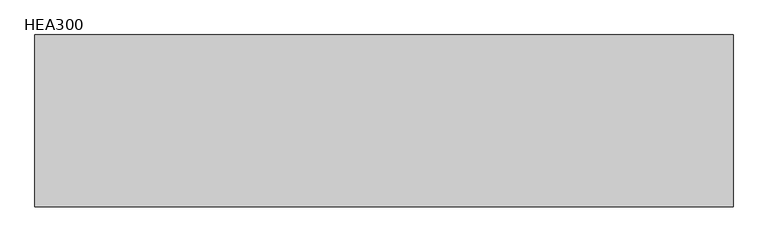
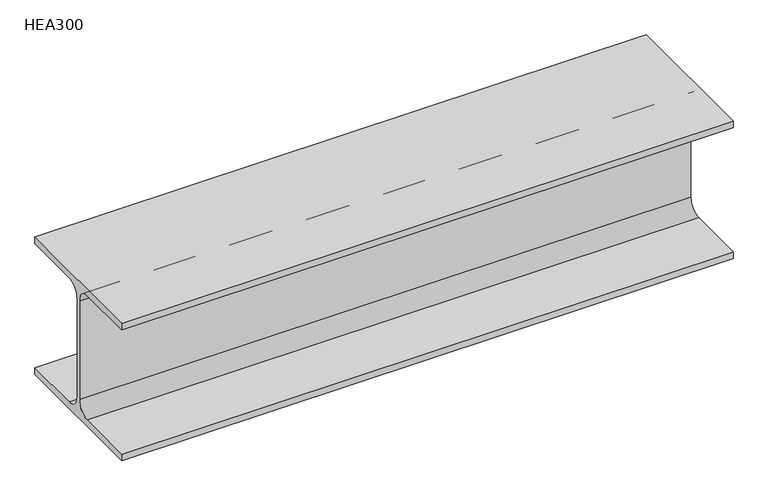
"""IFC4 building model written with IfcOpenShell, lengths in millimetres: beam geometry, HE-A : HEA300."""

from ifc_helpers import new_model, si_unit, point, frame, frame_2d, origin, place, context, project, spatial, polyline, circle_curve, trimmed, segment, composite_curve, outline, extrude, source, transform, mapped, element, save


def hea300_d8dc5cb0(model_context):
    return source(origin(), model_context, "Body", "SweptSolid", [
        extrude(outline(composite_curve([segment(polyline([(150.0, -131.0), (150.0, -145.0), (-150.0, -145.0), (-150.0, -131.0), (-31.25, -131.0)]), True, "CONTINUOUS"), segment(trimmed(circle_curve(frame_2d((-31.25, -104.0)), 27.0), [point((-31.25, -131.0))], [point((-4.25, -104.0))], True, "CARTESIAN"), True, "CONTINUOUS"), segment(polyline([(-4.25, -104.0), (-4.25, 104.0)]), True, "CONTINUOUS"), segment(trimmed(circle_curve(frame_2d((-31.25, 104.0)), 27.0), [point((-4.25, 104.0))], [point((-31.25, 131.0))], True, "CARTESIAN"), True, "CONTINUOUS"), segment(polyline([(-31.25, 131.0), (-150.0, 131.0), (-150.0, 145.0), (150.0, 145.0), (150.0, 131.0), (31.25, 131.0)]), True, "CONTINUOUS"), segment(trimmed(circle_curve(frame_2d((31.25, 104.0)), 27.0), [point((31.25, 131.0))], [point((4.25, 104.0))], True, "CARTESIAN"), True, "CONTINUOUS"), segment(polyline([(4.25, 104.0), (4.25, -104.0)]), True, "CONTINUOUS"), segment(trimmed(circle_curve(frame_2d((31.25, -104.0)), 27.0), [point((4.25, -104.0))], [point((31.25, -131.0))], True, "CARTESIAN"), True, "CONTINUOUS"), segment(polyline([(31.25, -131.0), (150.0, -131.0)]), True, "CONTINUOUS")], self_intersect=False)), frame((-604.9899, 0.0, 0.0), z_axis=(1.0, 0.0, 0.0), x_axis=(0.0, 1.0, 0.0)), (0.0, 0.0, 1.0), 1219.2),
    ])


if __name__ == "__main__":
    model = new_model("IFC4")
    model_context = context("Model", 3, world=origin())
    ifc_project = project(units=[si_unit("LENGTHUNIT", "METRE", prefix="MILLI")], contexts=[model_context])
    site = spatial("IfcSite", under=ifc_project)
    building = spatial("IfcBuilding", under=site)
    placement = place(None, origin())
    hea300_shape = hea300_d8dc5cb0(model_context)
    element("IfcBeam", 1, ObjectType="HE-A : HEA300", at=placement, inside=building, context=model_context, shape_type="MappedRepresentation", body=[
        mapped(hea300_shape, transform((0.0, 0.0, 0.0), x_axis=(1.0, 0.0, 0.0), y_axis=(0.0, 1.0, 0.0), z_axis=(0.0, 0.0, 1.0))),
    ])
    save(model, "model.ifc")
